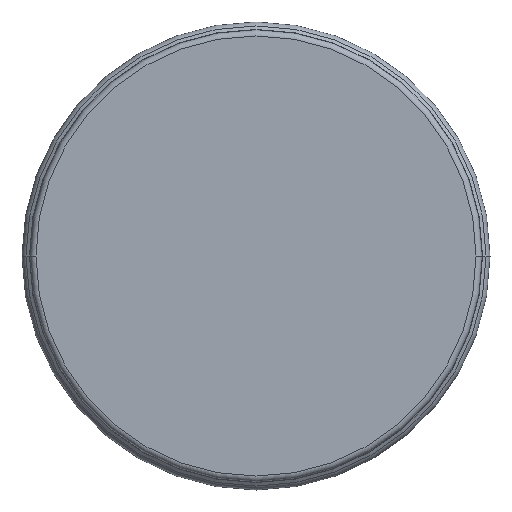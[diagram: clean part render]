
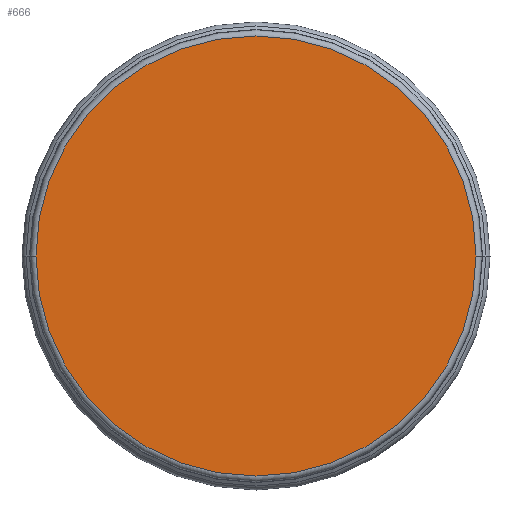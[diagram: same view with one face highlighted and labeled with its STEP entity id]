
A CAD part, left-side view. The second image highlights one B-rep face of the part: STEP entity #666.
In plain terms, the highlighted planar face has unit normal (-1, 0, 0).
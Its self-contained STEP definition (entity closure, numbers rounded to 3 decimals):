
#243=CARTESIAN_POINT('',(0.,0.,0.));
#244=DIRECTION('',(-1.,0.,0.));
#245=DIRECTION('',(0.,1.,0.));
#246=AXIS2_PLACEMENT_3D('',#243,#244,#245);
#251=CARTESIAN_POINT('',(0.,0.,0.));
#252=DIRECTION('',(1.,0.,0.));
#253=DIRECTION('',(0.,1.,0.));
#254=AXIS2_PLACEMENT_3D('',#251,#252,#253);
#410=CARTESIAN_POINT('',(0.,74.75,0.));
#412=VERTEX_POINT('',#410);
#416=CARTESIAN_POINT('',(0.,-74.75,0.));
#418=VERTEX_POINT('',#416);
#657=CARTESIAN_POINT('',(0.,0.,0.));
#658=DIRECTION('',(1.,0.,0.));
#659=DIRECTION('',(0.,-1.,0.));
#660=AXIS2_PLACEMENT_3D('',#657,#658,#659);
#661=PLANE('',#660);
#662=ORIENTED_EDGE('',*,*,#650,.F.);
#663=ORIENTED_EDGE('',*,*,#639,.T.);
#664=EDGE_LOOP('',(#662,#663));
#665=FACE_OUTER_BOUND('',#664,.F.);
#247=CIRCLE('',#246,74.75);
#255=CIRCLE('',#254,74.75);
#639=EDGE_CURVE('',#412,#418,#255,.T.);
#650=EDGE_CURVE('',#412,#418,#247,.T.);
#666=ADVANCED_FACE('',(#665),#661,.F.);
